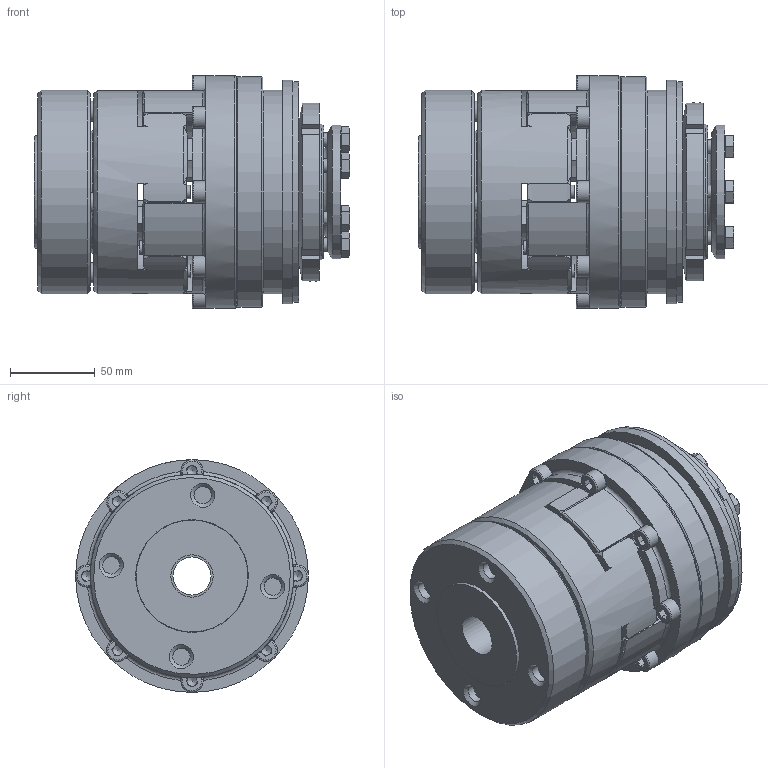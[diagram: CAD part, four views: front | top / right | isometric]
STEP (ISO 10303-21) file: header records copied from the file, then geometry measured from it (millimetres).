
FILE_DESCRIPTION( ( 'Unknown' ), '1' );
FILE_NAME( 'F:/JAKOB-STEP+IGES-Dateien/STEP-Dateien/SKY-ES/SKY-ES 500.stp', 'Unknown', ( 'Unknown' ), ( 'Unknown' ), 'PSStep 10.1', 'Unknown', ' ' );
FILE_SCHEMA( ( 'AUTOMOTIVE_DESIGN { 1 0 10303 214 1 1 1 1 }' ) );
Length unit declared in the file: millimetre
Products named in the file (1): kt100627
Bounding box: 185.8 x 137 x 137 mm (x, y, z)
Volume: 1645850.9 mm3; surface area: 290877.1 mm2
Topology: 1 solids, 19 shells, 801 faces, 2172 edges, 1405 vertices
Faces by surface type: plane 352, cylinder 212, cone 130, torus 91, sphere 16
Full cylindrical faces by diameter (mm): 2.5 x2, 4.2 x3, 6.8 x17, 8 x22, 8.6 x14, 10.2 x8, 11.4 x6, 12 x4, 12.5 x4, 13 x8, 18 x4, 19 x4, 22.5 x1, 25 x1, 28 x1, 36 x1, 46.5 x1, 51 x1, 58 x2, 67 x1, 69.8 x1, 70 x2, 72 x1, 72.4 x1, 73 x1, 78 x1, 79 x1, 80 x2, 80.1 x1, 80.3 x1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
Entity records: 31734 total; most frequent: CARTESIAN_POINT 7183, DIRECTION 3752, ORIENTED_EDGE 3502, EDGE_CURVE 1751, AXIS2_PLACEMENT_3D 1599, VERTEX_POINT 1236, EDGE_LOOP 1155, FACE_OUTER_BOUND 953
